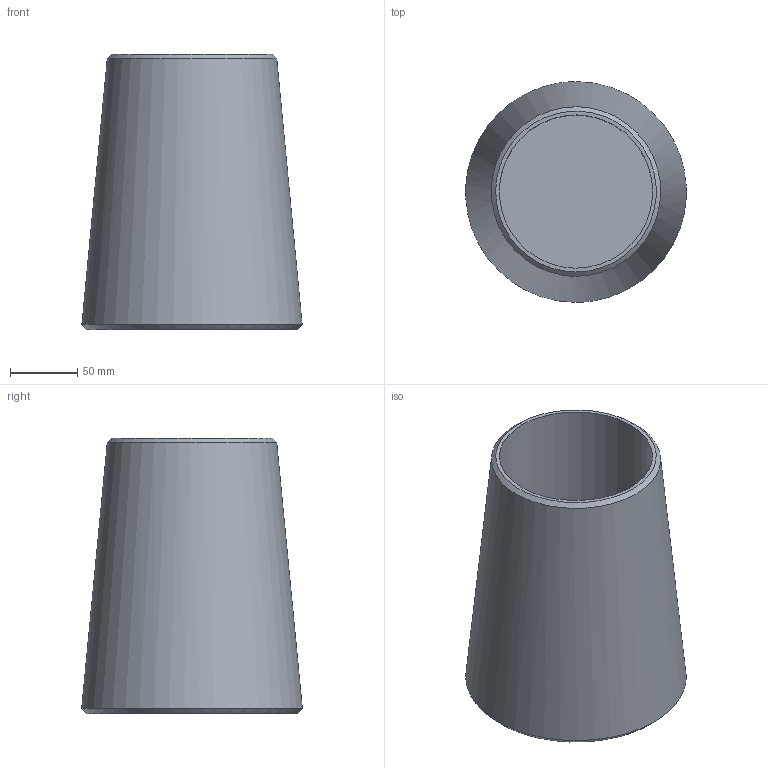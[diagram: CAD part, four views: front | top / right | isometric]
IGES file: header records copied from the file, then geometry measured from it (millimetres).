
Global section: file name: 520-110-KMU; native system: Autodesk Inventor 2016; preprocessor: unknown; author: BAYR; date: 20200618.123841; units: millimetre
Bounding box: 163.89 x 164.23 x 205 mm (x, y, z)
Volume: 1882100.8 mm3; surface area: 179517.2 mm2
Topology: 1 solids, 1 shells, 7 faces, 14 edges, 10 vertices
Faces by surface type: bspline 7
